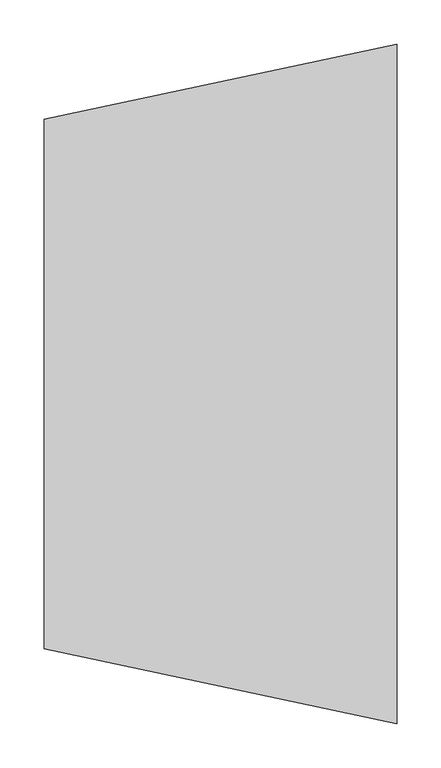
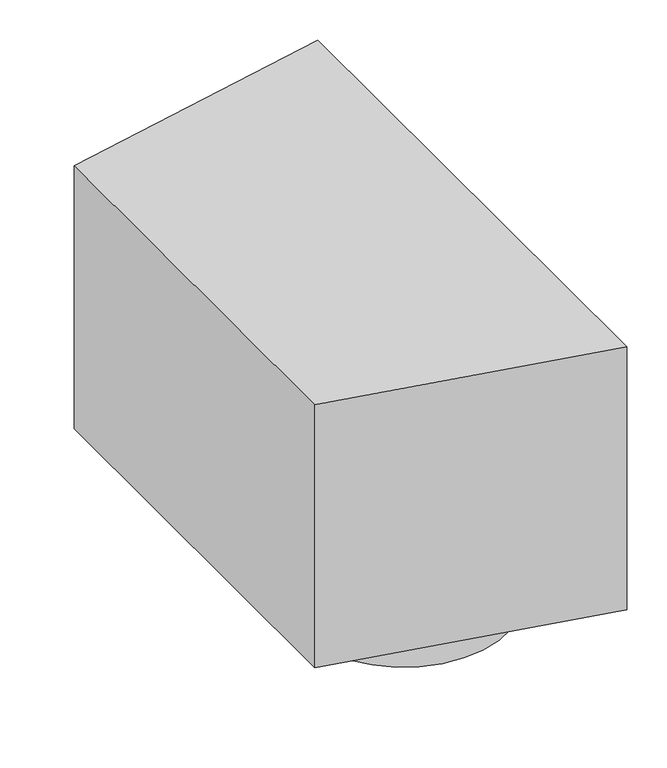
"""IFC4 building model written with IfcOpenShell, lengths in millimetres: duct fitting geometry, BL_Адаптер-НТ_ВерхНижПрямПрисоединение : BL_Адаптер-НТ_ВерхНижПрямПрисоединение."""

import ifcopenshell
import ifcopenshell.guid

model = None  # the IFC model being written
_history = None  # IfcOwnerHistory: only IFC2X3 demands one
_inside = {}  # id of a spatial element -> (the spatial element, [elements in it])
_under = {}  # id of a project, library or spatial element -> (it, [spatial elements below it])
_declared = {}  # id of a project -> (the project, [libraries it declares])
_typed = {}  # id of a type object -> (the type object, [elements of that type])
_made_of = {}  # id of a material, layer set ... -> (it, [elements and type objects made of it])


def new_model(schema):
    """Start an empty IFC model of exactly this schema.

    Asked for "IFC4X3", IfcOpenShell would pick the latest addendum, in which some entities
    have other attributes; the version numbers below select the first issue.
    IFC2X3 requires an IfcOwnerHistory on every rooted entity: one is made here for all.
    """
    global model, _history
    if schema == "IFC4X3":
        model = ifcopenshell.file(schema_version=(4, 3, 0, 0))
    else:
        model = ifcopenshell.file(schema=schema)
    _inside.clear()
    _under.clear()
    _declared.clear()
    _typed.clear()
    _made_of.clear()
    _history = None
    if model.schema == "IFC2X3":
        org = make("IfcOrganization", Name="unknown")
        user = make(
            "IfcPersonAndOrganization",
            ThePerson=make("IfcPerson", FamilyName="unknown"),
            TheOrganization=org,
        )
        app = make(
            "IfcApplication",
            ApplicationDeveloper=org,
            Version="unknown",
            ApplicationFullName="unknown",
            ApplicationIdentifier="unknown",
        )
        _history = make(
            "IfcOwnerHistory",
            OwningUser=user,
            OwningApplication=app,
            ChangeAction="ADDED",
            CreationDate=0,
        )
    return model


def make(cls, **values):
    """One entity of the class cls with the attributes given. An attribute that is None is left unset."""
    return model.create_entity(
        cls, **{name: value for name, value in values.items() if value is not None}
    )


def rooted(cls, **values):
    """An entity with a GlobalId (a new one), such as an element, a storey or a relation."""
    return make(cls, GlobalId=ifcopenshell.guid.new(), OwnerHistory=_history, **values)


def si_unit(unit_type, name, prefix=None):
    """IfcSIUnit, for example si_unit("LENGTHUNIT", "METRE", prefix="MILLI")."""
    return make("IfcSIUnit", UnitType=unit_type, Prefix=prefix, Name=name)


def assignment(units):
    """IfcUnitAssignment: the units of a project."""
    return None if units is None else make("IfcUnitAssignment", Units=units)


def point(xyz):
    """IfcCartesianPoint."""
    return None if xyz is None else make("IfcCartesianPoint", Coordinates=xyz)


def direction(xyz):
    """IfcDirection."""
    return None if xyz is None else make("IfcDirection", DirectionRatios=xyz)


def frame(location, z_axis=None, x_axis=None):
    """IfcAxis2Placement3D, a coordinate frame: its origin and axes. An axis left out is left unset."""
    return make(
        "IfcAxis2Placement3D",
        Location=point(location),
        Axis=direction(z_axis),
        RefDirection=direction(x_axis),
    )


def frame_2d(location, x_axis=None):
    """IfcAxis2Placement2D, a coordinate frame in the plane: its origin and x axis."""
    return make(
        "IfcAxis2Placement2D", Location=point(location), RefDirection=direction(x_axis)
    )


def origin():
    """The frame at (0, 0, 0) with its axes left unset."""
    return frame((0.0, 0.0, 0.0))


def place(relative_to, where):
    """IfcLocalPlacement: puts the frame where relative to a parent placement (None: the world)."""
    return make(
        "IfcLocalPlacement", PlacementRelTo=relative_to, RelativePlacement=where
    )


def context(
    kind, dimensions, precision=None, world=None, true_north=None, identifier=None
):
    """IfcGeometricRepresentationContext, for example the 3D "Model" context."""
    return make(
        "IfcGeometricRepresentationContext",
        ContextIdentifier=identifier,
        ContextType=kind,
        CoordinateSpaceDimension=dimensions,
        Precision=precision,
        WorldCoordinateSystem=world,
        TrueNorth=true_north,
    )


def project(units=None, contexts=None):
    """IfcProject with its units and contexts."""
    return rooted(
        "IfcProject",
        Name="project",
        RepresentationContexts=contexts,
        UnitsInContext=assignment(units),
    )


def spatial(cls, under=None, at=None, **own):
    """A site, building, storey or space (cls), placed at a placement, below another one or the project."""
    s = rooted(cls, ObjectPlacement=at, **own)
    if under is not None:
        _under.setdefault(under.id(), (under, []))[1].append(s)
    return s


def polyline(points):
    """IfcPolyline through the points."""
    return make("IfcPolyline", Points=[point(p) for p in points])


def circle_curve(where, radius):
    """IfcCircle in the frame where."""
    return make("IfcCircle", Position=where, Radius=radius)


def trimmed(basis, trim1, trim2, sense, master):
    """IfcTrimmedCurve: the piece of a basis curve between two trims."""
    return make(
        "IfcTrimmedCurve",
        BasisCurve=basis,
        Trim1=trim1,
        Trim2=trim2,
        SenseAgreement=sense,
        MasterRepresentation=master,
    )


def segment(curve, same_sense, transition):
    """IfcCompositeCurveSegment."""
    return make(
        "IfcCompositeCurveSegment",
        Transition=transition,
        SameSense=same_sense,
        ParentCurve=curve,
    )


def composite_curve(segments, self_intersect=None):
    """IfcCompositeCurve: segments joined end to end."""
    return make("IfcCompositeCurve", Segments=segments, SelfIntersect=self_intersect)


def outline(outer, holes=None, kind="AREA"):
    """IfcArbitraryClosedProfileDef: a profile drawn as a closed curve; with holes, ...WithVoids."""
    if holes is None:
        return make("IfcArbitraryClosedProfileDef", ProfileType=kind, OuterCurve=outer)
    return make(
        "IfcArbitraryProfileDefWithVoids",
        ProfileType=kind,
        OuterCurve=outer,
        InnerCurves=holes,
    )


def extrude(swept, where, along, depth):
    """IfcExtrudedAreaSolid: the profile swept, set in the frame where, extruded along a direction by depth."""
    return make(
        "IfcExtrudedAreaSolid",
        SweptArea=swept,
        Position=where,
        ExtrudedDirection=direction(along),
        Depth=depth,
    )


def shape(context_of_items, identifier, shape_type, items):
    """IfcShapeRepresentation: the items that make up one representation, for example the "Body"."""
    return make(
        "IfcShapeRepresentation",
        ContextOfItems=context_of_items,
        RepresentationIdentifier=identifier,
        RepresentationType=shape_type,
        Items=items,
    )


def source(mapping_origin, context_of_items, identifier, shape_type, items):
    """IfcRepresentationMap: a shape defined once, which mapped items show again and again."""
    return make(
        "IfcRepresentationMap",
        MappingOrigin=mapping_origin,
        MappedRepresentation=shape(context_of_items, identifier, shape_type, items),
    )


def transform(
    local_origin,
    x_axis=None,
    y_axis=None,
    z_axis=None,
    scale=None,
    scale2=None,
    scale3=None,
    uniform=True,
):
    """IfcCartesianTransformationOperator3D, or its non-uniform kind. x_axis, y_axis, z_axis: its Axis1, 2, 3."""
    if uniform:
        return make(
            "IfcCartesianTransformationOperator3D",
            Axis1=direction(x_axis),
            Axis2=direction(y_axis),
            LocalOrigin=point(local_origin),
            Scale=scale,
            Axis3=direction(z_axis),
        )
    return make(
        "IfcCartesianTransformationOperator3DnonUniform",
        Axis1=direction(x_axis),
        Axis2=direction(y_axis),
        LocalOrigin=point(local_origin),
        Scale=scale,
        Axis3=direction(z_axis),
        Scale2=scale2,
        Scale3=scale3,
    )


def mapped(mapping_source, mapping_target):
    """IfcMappedItem: shows the shape of a source again, moved by a transform."""
    return make(
        "IfcMappedItem", MappingSource=mapping_source, MappingTarget=mapping_target
    )


def made_of(thing, what):
    """Note that an element or type object is made of a material, layer set ...; save() writes the relation."""
    if what is not None:
        _made_of.setdefault(what.id(), (what, []))[1].append(thing)
    return thing


def element(
    cls,
    number,
    at=None,
    inside=None,
    cuts=None,
    type_object=None,
    material=None,
    context=None,
    identifier="Body",
    shape_type=None,
    held_by="IfcProductDefinitionShape",
    body=None,
    shapes=None,
    **own,
):
    """One element of the class cls, such as IfcWall. Its Tag is "e" and its number.

    at: its placement. inside: the storey or other place that contains it. cuts: it is an
    opening in that element (IfcRelVoidsElement). A single representation is given by context,
    identifier, shape_type and body (its items); several are given by shapes. held_by: the class
    of the entity that holds the representations. save() writes the other relations.
    """
    e = rooted(cls, Tag="e%d" % number, ObjectPlacement=at, **own)
    if body is not None:
        shapes = [shape(context, identifier, shape_type, body)]
    if shapes is not None:
        e.Representation = make(held_by, Representations=shapes)
    if inside is not None:
        _inside.setdefault(inside.id(), (inside, []))[1].append(e)
    if cuts is not None:
        rooted(
            "IfcRelVoidsElement", RelatingBuildingElement=cuts, RelatedOpeningElement=e
        )
    if type_object is not None:
        _typed.setdefault(type_object.id(), (type_object, []))[1].append(e)
    return made_of(e, material)


def aggregate(whole, parts):
    """IfcRelAggregates: a whole, such as a stair, and the parts it consists of."""
    return rooted("IfcRelAggregates", RelatingObject=whole, RelatedObjects=parts)


def save(model, path):
    """Write the relations noted so far, then the file.

    IfcRelAggregates (storeys below a building ...), IfcRelContainedInSpatialStructure (elements
    in a storey), IfcRelDefinesByType, IfcRelAssociatesMaterial and IfcRelDeclares: one each for
    every whole, place, type object, material and project.
    """
    for whole, parts in _under.values():
        aggregate(whole, parts)
    for where, things in _inside.values():
        rooted(
            "IfcRelContainedInSpatialStructure",
            RelatedElements=things,
            RelatingStructure=where,
        )
    for kind, things in _typed.values():
        rooted("IfcRelDefinesByType", RelatedObjects=things, RelatingType=kind)
    for what, things in _made_of.values():
        rooted("IfcRelAssociatesMaterial", RelatedObjects=things, RelatingMaterial=what)
    for by, libraries in _declared.values():
        rooted("IfcRelDeclares", RelatingContext=by, RelatedDefinitions=libraries)
    model.write(path)


def duct_fitting_bf4066f4(model_context):
    return source(origin(), model_context, "Body", "SweptSolid", [
        extrude(outline(composite_curve([segment(trimmed(circle_curve(frame_2d((200.0, -175.0)), 150.0), [point((350.0, -175.0))], [point((50.0, -175.0))], False, "CARTESIAN"), True, "CONTINUOUS"), segment(trimmed(circle_curve(frame_2d((200.0, -175.0)), 150.0), [point((50.0, -175.0))], [point((350.0, -175.0))], False, "CARTESIAN"), True, "CONTINUOUS")], self_intersect=False)), frame((0.0, 0.0, -240.0), z_axis=(0.0, 0.0, 1.0), x_axis=(1.0, 0.0, 0.0)), (0.0, 0.0, 1.0), 40.0),
        extrude(outline(composite_curve([segment(trimmed(circle_curve(frame_2d((200.0, 175.0)), 150.0), [point((350.0, 175.0))], [point((50.0, 175.0))], False, "CARTESIAN"), True, "CONTINUOUS"), segment(trimmed(circle_curve(frame_2d((200.0, 175.0)), 150.0), [point((50.0, 175.0))], [point((350.0, 175.0))], False, "CARTESIAN"), True, "CONTINUOUS")], self_intersect=False)), frame((0.0, 0.0, -240.0), z_axis=(0.0, 0.0, 1.0), x_axis=(1.0, 0.0, 0.0)), (0.0, 0.0, 1.0), 40.0),
        extrude(outline(polyline([(0.0, -300.0), (0.0, 300.0), (400.0, 385.0), (400.0, -385.0), (0.0, -300.0)])), frame((0.0, 0.0, -200.0), z_axis=(0.0, 0.0, 1.0), x_axis=(1.0, 0.0, 0.0)), (0.0, 0.0, 1.0), 400.0),
    ])


if __name__ == "__main__":
    model = new_model("IFC4")
    model_context = context("Model", 3, world=origin())
    ifc_project = project(units=[si_unit("LENGTHUNIT", "METRE", prefix="MILLI")], contexts=[model_context])
    site = spatial("IfcSite", under=ifc_project)
    building = spatial("IfcBuilding", under=site)
    placement = place(None, origin())
    duct_fitting_shape = duct_fitting_bf4066f4(model_context)
    element("IfcDuctFitting", 1, ObjectType="BL_Адаптер-НТ_ВерхНижПрямПрисоединение : BL_Адаптер-НТ_ВерхНижПрямПрисоединение", at=placement, inside=building, context=model_context, shape_type="MappedRepresentation", body=[
        mapped(duct_fitting_shape, transform((0.0, 0.0, 0.0), x_axis=(1.0, 0.0, 0.0), y_axis=(0.0, 1.0, 0.0), z_axis=(0.0, 0.0, 1.0))),
    ])
    save(model, "model.ifc")
